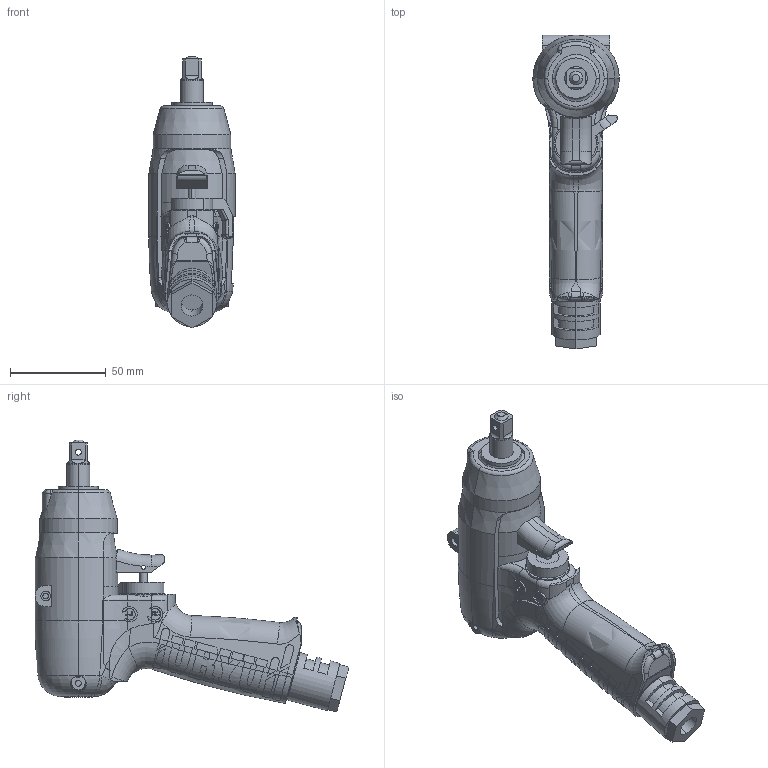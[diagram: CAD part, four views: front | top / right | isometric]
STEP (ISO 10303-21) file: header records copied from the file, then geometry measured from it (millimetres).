
FILE_DESCRIPTION (( 'STEP AP203' ), '1' );
FILE_NAME ('UL30.STEP', '2006-06-07T03:19:40', ( '' ), ( '' ), 'SwSTEP 2.0', 'SolidWorks 2003240', '' );
FILE_SCHEMA (( 'CONFIG_CONTROL_DESIGN' ));
Length unit declared in the file: millimetre
Products named in the file (8): 4802128_UL30D_蹬怮椔; 1430250_UL30D_蹬怮椔; 1434390_UL30D_蹬怮椔; UL30; 1471072_UL30D_蹬怮椔; 1434540_UL40_蹬怮椔; 1438400_UL30D_蹬怮椔; 1478422_ULT30D_蹬怮椔
Assembly tree (7 placements, depth 2):
  UL30
    1471072_UL30D_蹬怮椔
    1478422_ULT30D_蹬怮椔
    1438400_UL30D_蹬怮椔
    1430250_UL30D_蹬怮椔
    1434390_UL30D_蹬怮椔
    4802128_UL30D_蹬怮椔
    1434540_UL40_蹬怮椔
Bounding box: 45 x 163.47 x 141.72 mm (x, y, z)
Volume: 253010.5 mm3; surface area: 78910.5 mm2
Topology: 7 solids, 7 shells, 1285 faces, 3574 edges, 2320 vertices
Faces by surface type: plane 758, cylinder 264, bspline 179, torus 63, cone 15, sphere 6
Entity records: 113243 total; most frequent: CARTESIAN_POINT 82669, ORIENTED_EDGE 7140, DIRECTION 4841, EDGE_CURVE 3570, VERTEX_POINT 2320, AXIS2_PLACEMENT_3D 1651, LINE 1539, VECTOR 1539
